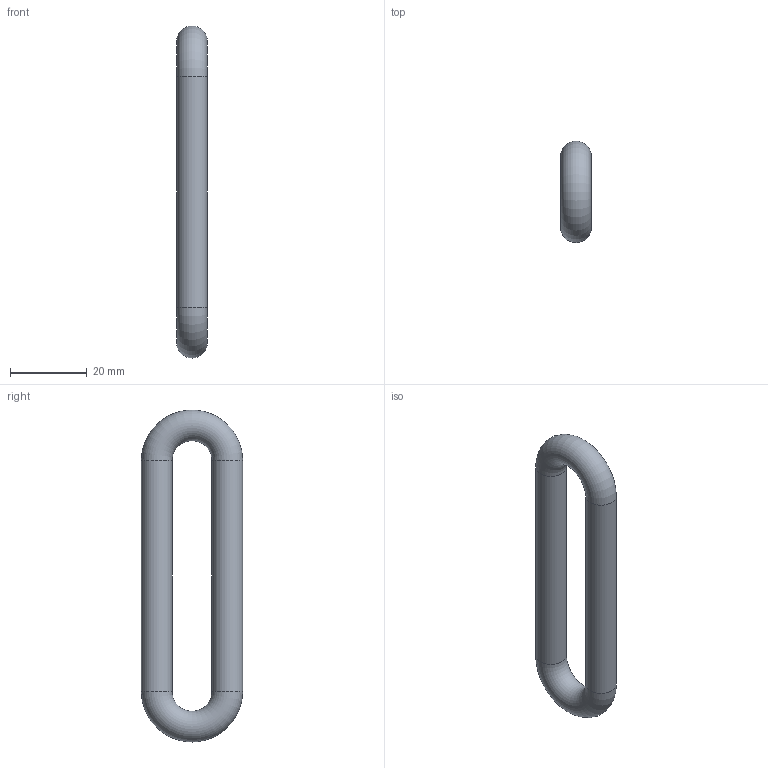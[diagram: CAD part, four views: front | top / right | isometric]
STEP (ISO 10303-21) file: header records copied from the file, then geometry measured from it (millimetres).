
FILE_DESCRIPTION(('Open CASCADE Model'),'2;1');
FILE_NAME('Open CASCADE Shape Model','2026-10-20T13:19:56',('Author'),( 'Open CASCADE'),'Open CASCADE STEP processor 7.9','Open CASCADE 7.9' ,'Unknown');
FILE_SCHEMA(('AUTOMOTIVE_DESIGN { 1 0 10303 214 1 1 1 1 }'));
Length unit declared in the file: millimetre
Products named in the file (1): Open CASCADE STEP translator 7.9 98
Bounding box: 8 x 26.4 x 86.4 mm (x, y, z)
Volume: 8937.5 mm3; surface area: 4468.7 mm2
Topology: 1 solids, 1 shells, 4 faces, 8 edges, 4 vertices
Faces by surface type: cylinder 2, torus 2
Full cylindrical faces by diameter (mm): 8 x2
Entity records: 224 total; most frequent: DIRECTION 40, CARTESIAN_POINT 33, LINE 18, VECTOR 18, ORIENTED_EDGE 16, PCURVE 16, DEFINITIONAL_REPRESENTATION 16, AXIS2_PLACEMENT_3D 11
